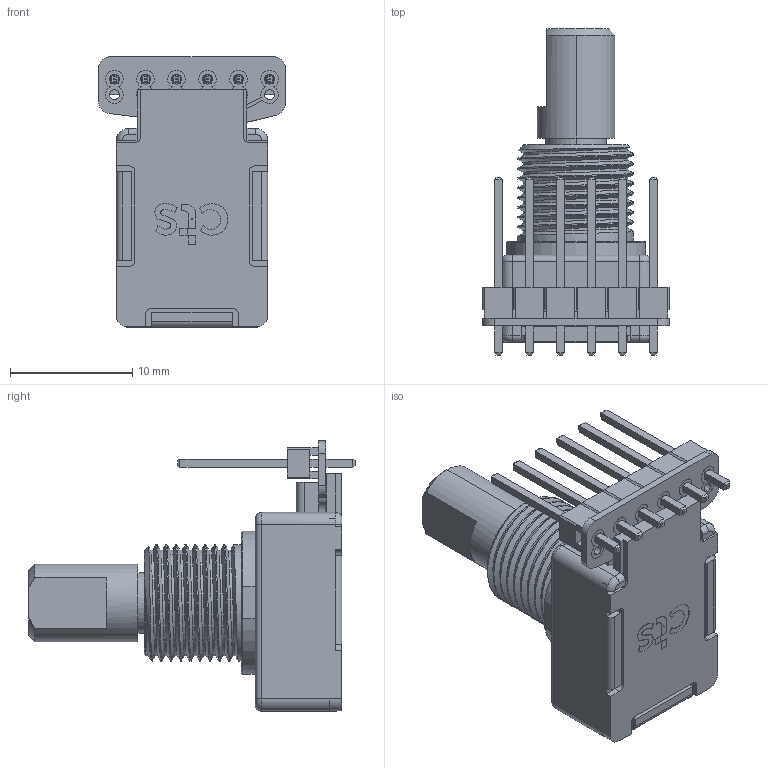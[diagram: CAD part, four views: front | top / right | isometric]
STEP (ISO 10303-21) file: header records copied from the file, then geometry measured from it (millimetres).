
FILE_DESCRIPTION(('Creo Elements/Direct Modeling STEP Export'),'2;1');
FILE_NAME('291AS0005.stp','2013-04-08T 0:14:08',(''),(''),'Creo Elements/Direct Modeling STEP processor for AP214 (Solid Model)','Creo Elements/Direct Modeling 18.1C 24-Feb-2013 (C) Parametric Technology GmbH','');
FILE_SCHEMA(('AUTOMOTIVE_DESIGN { 1 0 10303 214 1 1 1 1 }'));
Length unit declared in the file: millimetre
Products named in the file (1): 13M291A-02-400__BHHS_0.PRT
Bounding box: 15.3 x 26.71 x 22.13 mm (x, y, z)
Volume: 2507 mm3; surface area: 2183.7 mm2
Topology: 1 solids, 9 shells, 705 faces, 2121 edges, 1378 vertices
Faces by surface type: plane 448, cylinder 211, bspline 30, cone 10, torus 6
Entity records: 31472 total; most frequent: CARTESIAN_POINT 13300, ORIENTED_EDGE 4258, DIRECTION 3295, EDGE_CURVE 2121, VECTOR 1411, LINE 1411, VERTEX_POINT 1378, AXIS2_PLACEMENT_3D 942
